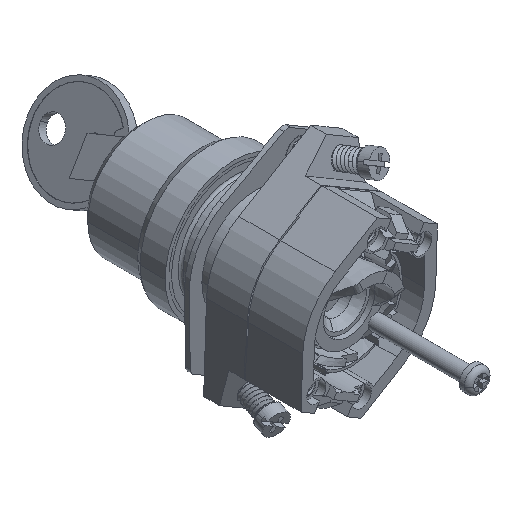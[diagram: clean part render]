
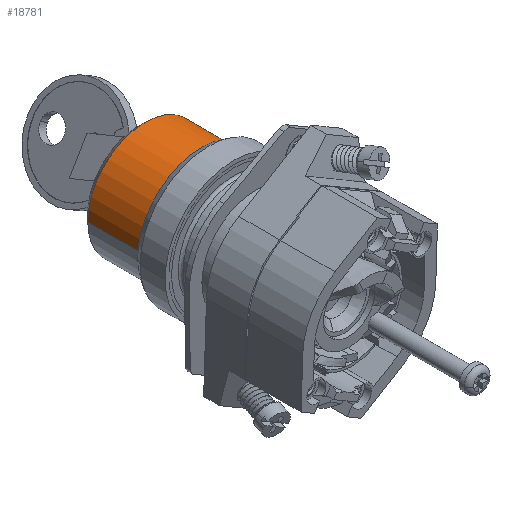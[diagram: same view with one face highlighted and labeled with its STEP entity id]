
A CAD part, isometric view. The second image highlights one B-rep face of the part: STEP entity #18781.
In plain terms, the highlighted cylindrical face has radius 12 mm (diameter 24 mm), a partial arc.
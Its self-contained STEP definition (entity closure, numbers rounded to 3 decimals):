
#18441=CARTESIAN_POINT('',(0.,6.7,0.));
#18442=DIRECTION('',(0.,1.,0.));
#18443=DIRECTION('',(-1.,0.,0.));
#18444=AXIS2_PLACEMENT_3D('',#18441,#18442,#18443);
#18469=CARTESIAN_POINT('',(0.,18.5,0.));
#18470=DIRECTION('',(0.,-1.,0.));
#18471=DIRECTION('',(1.,0.,0.));
#18472=AXIS2_PLACEMENT_3D('',#18469,#18470,#18471);
#18474=DIRECTION('',(0.,-1.,0.));
#18475=VECTOR('',#18474,11.8);
#18476=CARTESIAN_POINT('',(12.,18.5,
0.));
#18477=LINE('',#18476,#18475);
#18478=DIRECTION('',(0.,-1.,0.));
#18479=VECTOR('',#18478,11.8);
#18480=CARTESIAN_POINT('',(-12.,18.5,
0.));
#18481=LINE('',#18480,#18479);
#18588=CARTESIAN_POINT('',(-12.,6.7,0.));
#18589=CARTESIAN_POINT('',(12.,6.7,0.));
#18590=VERTEX_POINT('',#18588);
#18591=VERTEX_POINT('',#18589);
#18628=CARTESIAN_POINT('',(12.,18.5,0.));
#18629=CARTESIAN_POINT('',(-12.,18.5,0.));
#18630=VERTEX_POINT('',#18628);
#18631=VERTEX_POINT('',#18629);
#18770=CARTESIAN_POINT('',(0.,21.,0.));
#18771=DIRECTION('',(0.,-1.,0.));
#18772=DIRECTION('',(-1.,0.,0.));
#18773=AXIS2_PLACEMENT_3D('',#18770,#18771,#18772);
#18774=CYLINDRICAL_SURFACE('',#18773,12.);
#18775=ORIENTED_EDGE('',*,*,#18761,.F.);
#18776=ORIENTED_EDGE('',*,*,#18736,.T.);
#18777=ORIENTED_EDGE('',*,*,#18721,.F.);
#18778=ORIENTED_EDGE('',*,*,#18733,.F.);
#18779=EDGE_LOOP('',(#18775,#18776,#18777,#18778));
#18780=FACE_OUTER_BOUND('',#18779,.F.);
#18445=CIRCLE('',#18444,12.);
#18473=CIRCLE('',#18472,12.);
#18721=EDGE_CURVE('',#18590,#18591,#18445,.T.);
#18733=EDGE_CURVE('',#18631,#18590,#18481,.T.);
#18736=EDGE_CURVE('',#18630,#18591,#18477,.T.);
#18761=EDGE_CURVE('',#18630,#18631,#18473,.T.);
#18781=ADVANCED_FACE('',(#18780),#18774,.T.);
